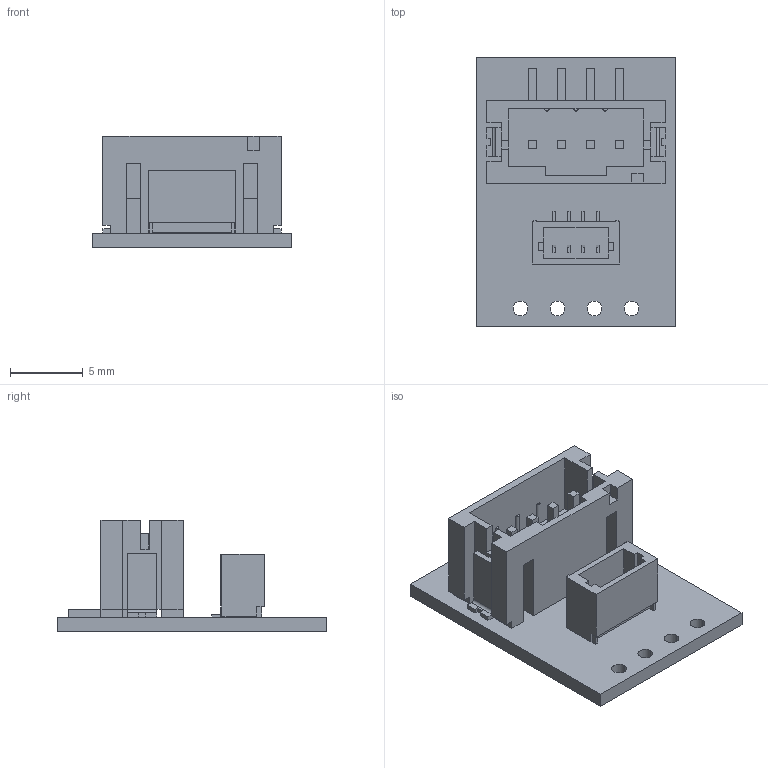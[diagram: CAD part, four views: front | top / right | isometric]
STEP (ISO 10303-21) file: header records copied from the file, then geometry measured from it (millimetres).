
FILE_DESCRIPTION (( 'STEP AP214' ), '1' );
FILE_NAME ('con10a_top_entry.STEP', '2025-08-19T02:12:24', ( '' ), ( '' ), 'SwSTEP 2.0', 'SolidWorks 2025', '' );
FILE_SCHEMA (( 'AUTOMOTIVE_DESIGN' ));
Length unit declared in the file: millimetre
Products named in the file (1): con10a_top_entry
Bounding box: 13.72 x 18.54 x 7.69 mm (x, y, z)
Volume: 538.7 mm3; surface area: 1287.5 mm2
Topology: 1 solids, 1 shells, 596 faces, 1661 edges, 1102 vertices
Faces by surface type: plane 403, bspline 178, cylinder 15
Entity records: 32171 total; most frequent: CARTESIAN_POINT 11426, ORIENTED_EDGE 3322, DIRECTION 2173, EDGE_CURVE 1661, LINE 1275, VECTOR 1275, VERTEX_POINT 1102, EDGE_LOOP 669
